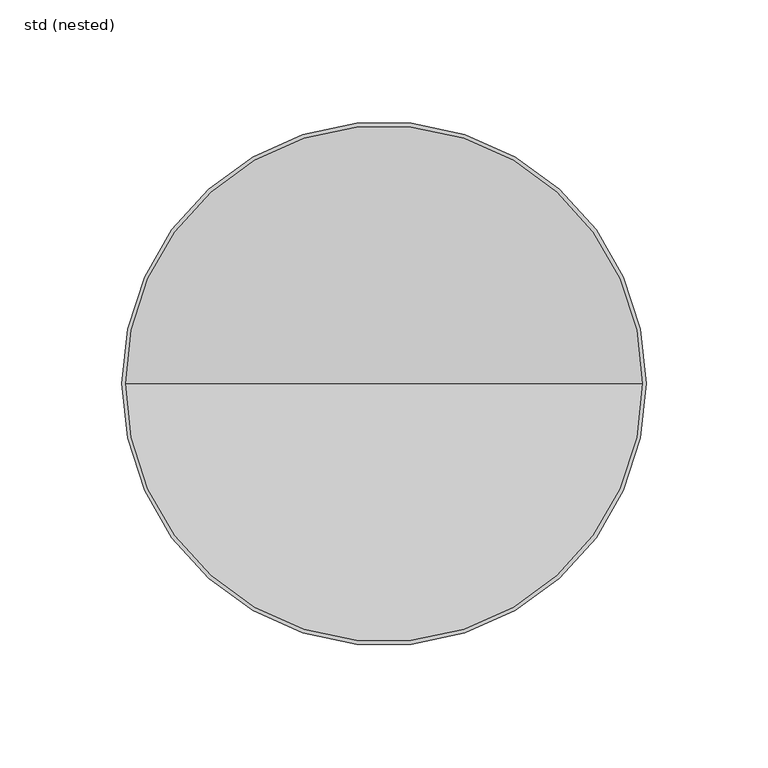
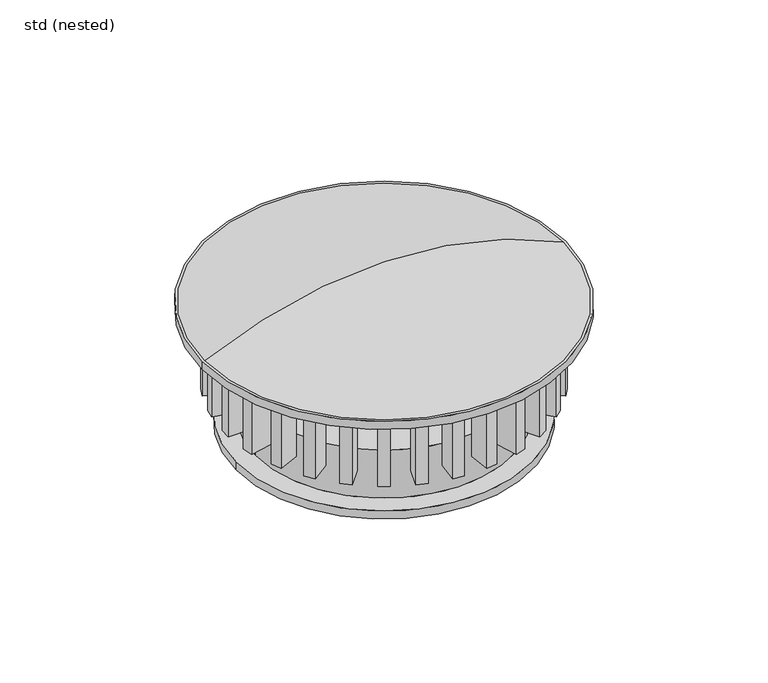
"""IFC4 building model written with IfcOpenShell, lengths in millimetres: sanitary terminal geometry, ZZZ_do_not_use_PF_CI_pipe with ball grating for emergency overflow for Passavant Spin_ACO : std (nested)."""

from ifc_helpers import new_model, si_unit, point, frame, origin, origin_with_axes, origin_2d, place, context, project, spatial, polyline, circle_curve, ellipse_curve, trimmed, segment, composite_curve, outline, extrude, source, transform, mapped, element, save
from ifc_brep_helpers import plane_surface, cylinder_surface, revolved_surface, advanced_brep


def std_nested_7ef8eedc(model_context):
    return source(origin(), model_context, "Body", "SolidModel", [
        extrude(outline(polyline([(6.5934794, 93.8247757), (13.0578717, 93.1453407), (11.6990017, 80.216556), (5.2346094, 80.895991), (6.5934794, 93.8247757)])), frame((0.0, 0.0, 25.0), z_axis=(0.0, 0.0, 1.0), x_axis=(1.0, 0.0, 0.0)), (0.0, 0.0, 1.0), 45.0),
        extrude(outline(polyline([(-32.1385311, 88.3950073), (-25.9566638, 90.4036178), (-21.9394429, 78.0398831), (-28.1213102, 76.0312726), (-32.1385311, 88.3950073)])), frame((0.0, 0.0, 25.0), z_axis=(0.0, 0.0, 1.0), x_axis=(1.0, 0.0, 0.0)), (0.0, 0.0, 1.0), 45.0),
        extrude(outline(polyline([(-13.0578717, 93.1453407), (-6.5934794, 93.8247757), (-5.2346094, 80.895991), (-11.6990017, 80.216556), (-13.0578717, 93.1453407)])), frame((0.0, 0.0, 25.0), z_axis=(0.0, 0.0, 1.0), x_axis=(1.0, 0.0, 0.0)), (0.0, 0.0, 1.0), 45.0),
        extrude(outline(polyline([(-77.9578995, 52.6225085), (-74.1372954, 57.8811189), (-63.6200745, 50.2399107), (-67.4406786, 44.9813002), (-77.9578995, 52.6225085)])), frame((0.0, 0.0, 25.0), z_axis=(0.0, 0.0, 1.0), x_axis=(1.0, 0.0, 0.0)), (0.0, 0.0, 1.0), 45.0),
        extrude(outline(polyline([(-65.3134977, 67.6809391), (-60.4830563, 72.0302881), (-51.7843584, 62.3694053), (-56.6147998, 58.0200564), (-65.3134977, 67.6809391)])), frame((0.0, 0.0, 25.0), z_axis=(0.0, 0.0, 1.0), x_axis=(1.0, 0.0, 0.0)), (0.0, 0.0, 1.0), 45.0),
        extrude(outline(polyline([(-49.8145826, 79.781388), (-44.1854174, 83.031388), (-37.6854174, 71.7730577), (-43.3145826, 68.5230577), (-49.8145826, 79.781388)])), frame((0.0, 0.0, 25.0), z_axis=(0.0, 0.0, 1.0), x_axis=(1.0, 0.0, 0.0)), (0.0, 0.0, 1.0), 45.0),
        extrude(outline(polyline([(-87.1951671, 35.2642217), (-84.5513789, 41.2022672), (-72.675288, 35.9146908), (-75.3190762, 29.9766454), (-87.1951671, 35.2642217)])), frame((0.0, 0.0, 25.0), z_axis=(0.0, 0.0, 1.0), x_axis=(1.0, 0.0, 0.0)), (0.0, 0.0, 1.0), 45.0),
        extrude(outline(polyline([(-92.6215875, 16.3647192), (-91.2701615, 22.7226786), (-78.5542427, 20.0198267), (-79.9056687, 13.6618673), (-92.6215875, 16.3647192)])), frame((0.0, 0.0, 25.0), z_axis=(0.0, 0.0, 1.0), x_axis=(1.0, 0.0, 0.0)), (0.0, 0.0, 1.0), 45.0),
        extrude(outline(polyline([(-94.0, -3.25), (-94.0, 3.25), (-81.0, 3.25), (-81.0, -3.25), (-94.0, -3.25)])), frame((0.0, 0.0, 25.0), z_axis=(0.0, 0.0, 1.0), x_axis=(1.0, 0.0, 0.0)), (0.0, 0.0, 1.0), 45.0),
        extrude(outline(polyline([(-91.2701615, -22.7226786), (-92.6215875, -16.3647192), (-79.9056687, -13.6618673), (-78.5542427, -20.0198267), (-91.2701615, -22.7226786)])), frame((0.0, 0.0, 25.0), z_axis=(0.0, 0.0, 1.0), x_axis=(1.0, 0.0, 0.0)), (0.0, 0.0, 1.0), 45.0),
        extrude(outline(polyline([(-84.5513789, -41.2022672), (-87.1951671, -35.2642217), (-75.3190762, -29.9766454), (-72.675288, -35.9146908), (-84.5513789, -41.2022672)])), frame((0.0, 0.0, 25.0), z_axis=(0.0, 0.0, 1.0), x_axis=(1.0, 0.0, 0.0)), (0.0, 0.0, 1.0), 45.0),
        extrude(outline(polyline([(-60.4830563, -72.0302881), (-65.3134977, -67.6809391), (-56.6147998, -58.0200564), (-51.7843584, -62.3694053), (-60.4830563, -72.0302881)])), frame((0.0, 0.0, 25.0), z_axis=(0.0, 0.0, 1.0), x_axis=(1.0, 0.0, 0.0)), (0.0, 0.0, 1.0), 45.0),
        extrude(outline(polyline([(-74.1372954, -57.8811189), (-77.9578995, -52.6225085), (-67.4406786, -44.9813002), (-63.6200745, -50.2399107), (-74.1372954, -57.8811189)])), frame((0.0, 0.0, 25.0), z_axis=(0.0, 0.0, 1.0), x_axis=(1.0, 0.0, 0.0)), (0.0, 0.0, 1.0), 45.0),
        extrude(outline(polyline([(-44.1854174, -83.031388), (-49.8145826, -79.781388), (-43.3145826, -68.5230577), (-37.6854174, -71.7730577), (-44.1854174, -83.031388)])), frame((0.0, 0.0, 25.0), z_axis=(0.0, 0.0, 1.0), x_axis=(1.0, 0.0, 0.0)), (0.0, 0.0, 1.0), 45.0),
        extrude(outline(polyline([(-25.9566638, -90.4036178), (-32.1385311, -88.3950073), (-28.1213102, -76.0312726), (-21.9394429, -78.0398831), (-25.9566638, -90.4036178)])), frame((0.0, 0.0, 25.0), z_axis=(0.0, 0.0, 1.0), x_axis=(1.0, 0.0, 0.0)), (0.0, 0.0, 1.0), 45.0),
        extrude(outline(polyline([(-6.5934794, -93.8247757), (-13.0578717, -93.1453407), (-11.6990017, -80.216556), (-5.2346094, -80.895991), (-6.5934794, -93.8247757)])), frame((0.0, 0.0, 25.0), z_axis=(0.0, 0.0, 1.0), x_axis=(1.0, 0.0, 0.0)), (0.0, 0.0, 1.0), 45.0),
        extrude(outline(polyline([(65.3134977, -67.6809391), (60.4830563, -72.0302881), (51.7843584, -62.3694053), (56.6147998, -58.0200564), (65.3134977, -67.6809391)])), frame((0.0, 0.0, 25.0), z_axis=(0.0, 0.0, 1.0), x_axis=(1.0, 0.0, 0.0)), (0.0, 0.0, 1.0), 45.0),
        extrude(outline(polyline([(77.9578995, -52.6225085), (74.1372954, -57.8811189), (63.6200745, -50.2399107), (67.4406786, -44.9813002), (77.9578995, -52.6225085)])), frame((0.0, 0.0, 25.0), z_axis=(0.0, 0.0, 1.0), x_axis=(1.0, 0.0, 0.0)), (0.0, 0.0, 1.0), 45.0),
        extrude(outline(polyline([(87.1951671, -35.2642217), (84.5513789, -41.2022672), (72.675288, -35.9146908), (75.3190762, -29.9766454), (87.1951671, -35.2642217)])), frame((0.0, 0.0, 25.0), z_axis=(0.0, 0.0, 1.0), x_axis=(1.0, 0.0, 0.0)), (0.0, 0.0, 1.0), 45.0),
        extrude(outline(polyline([(92.6215875, -16.3647192), (91.2701615, -22.7226786), (78.5542427, -20.0198267), (79.9056687, -13.6618673), (92.6215875, -16.3647192)])), frame((0.0, 0.0, 25.0), z_axis=(0.0, 0.0, 1.0), x_axis=(1.0, 0.0, 0.0)), (0.0, 0.0, 1.0), 45.0),
        extrude(outline(polyline([(32.1385311, -88.3950073), (25.9566638, -90.4036178), (21.9394429, -78.0398831), (28.1213102, -76.0312726), (32.1385311, -88.3950073)])), frame((0.0, 0.0, 25.0), z_axis=(0.0, 0.0, 1.0), x_axis=(1.0, 0.0, 0.0)), (0.0, 0.0, 1.0), 45.0),
        extrude(outline(polyline([(25.9566638, 90.4036178), (32.1385311, 88.3950073), (28.1213102, 76.0312726), (21.9394429, 78.0398831), (25.9566638, 90.4036178)])), frame((0.0, 0.0, 25.0), z_axis=(0.0, 0.0, 1.0), x_axis=(1.0, 0.0, 0.0)), (0.0, 0.0, 1.0), 45.0),
        extrude(outline(polyline([(60.4830563, 72.0302881), (65.3134977, 67.6809391), (56.6147998, 58.0200564), (51.7843584, 62.3694053), (60.4830563, 72.0302881)])), frame((0.0, 0.0, 25.0), z_axis=(0.0, 0.0, 1.0), x_axis=(1.0, 0.0, 0.0)), (0.0, 0.0, 1.0), 45.0),
        extrude(outline(polyline([(74.1372954, 57.8811189), (77.9578995, 52.6225085), (67.4406786, 44.9813002), (63.6200745, 50.2399107), (74.1372954, 57.8811189)])), frame((0.0, 0.0, 25.0), z_axis=(0.0, 0.0, 1.0), x_axis=(1.0, 0.0, 0.0)), (0.0, 0.0, 1.0), 45.0),
        extrude(outline(polyline([(84.5513789, 41.2022672), (87.1951671, 35.2642217), (75.3190762, 29.9766454), (72.675288, 35.9146908), (84.5513789, 41.2022672)])), frame((0.0, 0.0, 25.0), z_axis=(0.0, 0.0, 1.0), x_axis=(1.0, 0.0, 0.0)), (0.0, 0.0, 1.0), 45.0),
        extrude(outline(polyline([(44.1854174, 83.031388), (49.8145826, 79.781388), (43.3145826, 68.5230577), (37.6854174, 71.7730577), (44.1854174, 83.031388)])), frame((0.0, 0.0, 25.0), z_axis=(0.0, 0.0, 1.0), x_axis=(1.0, 0.0, 0.0)), (0.0, 0.0, 1.0), 45.0),
        extrude(outline(polyline([(91.2701615, 22.7226786), (92.6215875, 16.3647192), (79.9056687, 13.6618673), (78.5542427, 20.0198267), (91.2701615, 22.7226786)])), frame((0.0, 0.0, 25.0), z_axis=(0.0, 0.0, 1.0), x_axis=(1.0, 0.0, 0.0)), (0.0, 0.0, 1.0), 45.0),
        extrude(outline(polyline([(94.0, 3.25), (94.0, -3.25), (81.0, -3.25), (81.0, 3.25), (94.0, 3.25)])), frame((0.0, 0.0, 25.0), z_axis=(0.0, 0.0, 1.0), x_axis=(1.0, 0.0, 0.0)), (0.0, 0.0, 1.0), 45.0),
        extrude(outline(polyline([(49.8145826, -79.781388), (44.1854174, -83.031388), (37.6854174, -71.7730577), (43.3145826, -68.5230577), (49.8145826, -79.781388)])), frame((0.0, 0.0, 25.0), z_axis=(0.0, 0.0, 1.0), x_axis=(1.0, 0.0, 0.0)), (0.0, 0.0, 1.0), 45.0),
        extrude(outline(polyline([(13.0578717, -93.1453407), (6.5934794, -93.8247757), (5.2346094, -80.895991), (11.6990017, -80.216556), (13.0578717, -93.1453407)])), frame((0.0, 0.0, 25.0), z_axis=(0.0, 0.0, 1.0), x_axis=(1.0, 0.0, 0.0)), (0.0, 0.0, 1.0), 45.0),
        advanced_brep(
        [(93.1365127, 0.0, 75.0), (-93.1365127, 0.0, 75.0), (-105.9594734, 0.0, 75.0), (105.9594734, 0.0, 75.0), (0.0, 0.0, 94.9), (0.0, 0.0, 99.9)],
        [
            (0, 1, circle_curve(frame((0.0, 0.0, 75.0), z_axis=(0.0, 0.0, 1.0), x_axis=(-1.0, 0.0, 0.0)), 93.1365127)),
            (1, 2),
            (2, 3, circle_curve(frame((0.0, 0.0, 75.0), z_axis=(0.0, 0.0, -1.0), x_axis=(-1.0, 0.0, 0.0)), 105.9594734)),
            (3, 0),
            (1, 0, circle_curve(frame((0.0, 0.0, 75.0), z_axis=(0.0, 0.0, 1.0), x_axis=(-1.0, 0.0, 0.0)), 93.1365127)),
            (3, 2, circle_curve(frame((0.0, 0.0, 75.0), z_axis=(0.0, 0.0, -1.0), x_axis=(-1.0, 0.0, 0.0)), 105.9594734)),
            (4, 1, circle_curve(frame((0.0, 0.0, -133.0), z_axis=(0.0, -1.0, 0.0), x_axis=(1.0, 0.0, 0.0)), 227.9)),
            (0, 4, circle_curve(frame((0.0, 0.0, -133.0), z_axis=(0.0, -1.0, 0.0), x_axis=(-1.0, 0.0, 0.0)), 227.9)),
            (2, 5, circle_curve(frame((0.0, 0.0, -138.0), z_axis=(0.0, 1.0, 0.0), x_axis=(1.0, 0.0, 0.0)), 237.9)),
            (5, 3, circle_curve(frame((0.0, 0.0, -138.0), z_axis=(0.0, 1.0, 0.0), x_axis=(-1.0, 0.0, 0.0)), 237.9)),
        ],
        [
            plane_surface(frame((0.0, 0.0, 75.0), z_axis=(0.0, 0.0, -1.0), x_axis=(-1.0, 0.0, 0.0))),
            revolved_surface(trimmed(ellipse_curve(frame((0.0, 0.0, -133.0), z_axis=(0.0, 1.0, 0.0), x_axis=(1.0, 0.0, 0.0)), 227.9, 227.9), [point((-93.1365127, 0.0, 75.0))], [point((0.0, 0.0, 94.9))], True, "CARTESIAN"), (0.0, 0.0, 115.2388738), (0.0, 0.0, -1.0)),
            revolved_surface(trimmed(ellipse_curve(frame((0.0, 0.0, -138.0), z_axis=(0.0, -1.0, 0.0), x_axis=(1.0, 0.0, 0.0)), 237.9, 237.9), [point((0.0, 0.0, 99.9))], [point((-105.9594734, 0.0, 75.0))], True, "CARTESIAN"), (0.0, 0.0, 115.2388738), (0.0, 0.0, -1.0)),
        ],
        [
            (0, [[1, 2, 3, 4]]),
            (0, [[5, -4, 6, -2]]),
            (1, [[7, -1, 8]]),
            (1, [[-8, -5, -7]]),
            (2, [[-3, 9, 10]]),
            (2, [[-6, -10, -9]]),
        ],
    ),
        extrude(outline(composite_curve([segment(trimmed(circle_curve(origin_2d(), 107.5), [point((-107.5, 0.0))], [point((107.5, 0.0))], False, "CARTESIAN"), True, "CONTINUOUS"), segment(trimmed(circle_curve(origin_2d(), 107.5), [point((107.5, 0.0))], [point((-107.5, 0.0))], False, "CARTESIAN"), True, "CONTINUOUS")], self_intersect=False), holes=[composite_curve([segment(trimmed(circle_curve(origin_2d(), 87.75), [point((-87.75, 0.0))], [point((87.75, 0.0))], True, "CARTESIAN"), True, "CONTINUOUS"), segment(trimmed(circle_curve(origin_2d(), 87.75), [point((87.75, 0.0))], [point((-87.75, 0.0))], True, "CARTESIAN"), True, "CONTINUOUS")], self_intersect=False)]), frame((0.0, 0.0, 70.0), z_axis=(0.0, 0.0, 1.0), x_axis=(1.0, 0.0, 0.0)), (0.0, 0.0, 1.0), 5.0),
        advanced_brep(
        [(-75.95, 0.0, 35.0), (75.95, 0.0, 35.0), (-87.5, 0.0, 0.0), (87.5, 0.0, 0.0), (-75.95, 0.0, 5.0), (75.95, 0.0, 5.0), (-87.5, 0.0, 5.0), (87.5, 0.0, 5.0)],
        [
            (0, 1, circle_curve(frame((0.0, 0.0, 35.0), z_axis=(0.0, 0.0, 1.0), x_axis=(1.0, 0.0, 0.0)), 75.95)),
            (1, 0, circle_curve(frame((0.0, 0.0, 35.0), z_axis=(0.0, 0.0, 1.0), x_axis=(1.0, 0.0, 0.0)), 75.95)),
            (2, 3, circle_curve(frame((0.0, 0.0, 0.0), z_axis=(0.0, 0.0, -1.0), x_axis=(1.0, 0.0, 0.0)), 87.5)),
            (3, 2, circle_curve(frame((0.0, 0.0, 0.0), z_axis=(0.0, 0.0, -1.0), x_axis=(1.0, 0.0, 0.0)), 87.5)),
            (0, 4),
            (4, 5, circle_curve(frame((0.0, 0.0, 5.0), z_axis=(0.0, 0.0, 1.0), x_axis=(1.0, 0.0, 0.0)), 75.95)),
            (5, 1),
            (5, 4, circle_curve(frame((0.0, 0.0, 5.0), z_axis=(0.0, 0.0, 1.0), x_axis=(1.0, 0.0, 0.0)), 75.95)),
            (6, 7, circle_curve(frame((0.0, 0.0, 5.0), z_axis=(0.0, 0.0, 1.0), x_axis=(1.0, 0.0, 0.0)), 87.5)),
            (7, 6, circle_curve(frame((0.0, 0.0, 5.0), z_axis=(0.0, 0.0, 1.0), x_axis=(1.0, 0.0, 0.0)), 87.5)),
            (6, 2),
            (3, 7),
        ],
        [
            plane_surface(frame((75.95, 0.0, 35.0), z_axis=(0.0, 0.0, 1.0), x_axis=(0.0, 1.0, 0.0))),
            plane_surface(frame((75.95, 0.0, 0.0), z_axis=(0.0, 0.0, -1.0), x_axis=(0.0, -1.0, 0.0))),
            cylinder_surface(origin_with_axes(), 75.95),
            plane_surface(frame((87.5, 0.0, 5.0), z_axis=(0.0, 0.0, 1.0), x_axis=(0.0, 1.0, 0.0))),
            cylinder_surface(origin_with_axes(), 87.5),
        ],
        [
            (0, [[1, 2]]),
            (1, [[3, 4]]),
            (2, [[-1, 5, 6, 7]]),
            (2, [[-2, -7, 8, -5]]),
            (3, [[9, 10], [-6, -8]]),
            (4, [[-9, 11, -4, 12]]),
            (4, [[-10, -12, -3, -11]]),
        ],
    ),
    ])


if __name__ == "__main__":
    model = new_model("IFC4")
    model_context = context("Model", 3, world=origin())
    ifc_project = project(units=[si_unit("LENGTHUNIT", "METRE", prefix="MILLI")], contexts=[model_context])
    site = spatial("IfcSite", under=ifc_project)
    building = spatial("IfcBuilding", under=site)
    placement = place(None, origin())
    std_nested_shape = std_nested_7ef8eedc(model_context)
    element("IfcSanitaryTerminal", 1, ObjectType="ZZZ_do_not_use_PF_CI_pipe with ball grating for emergency overflow for Passavant Spin_ACO : std (nested)", at=placement, inside=building, context=model_context, shape_type="MappedRepresentation", body=[
        mapped(std_nested_shape, transform((0.0, 0.0, 0.0), x_axis=(1.0, 0.0, 0.0), y_axis=(0.0, 1.0, 0.0), z_axis=(0.0, 0.0, 1.0))),
    ])
    save(model, "model.ifc")
